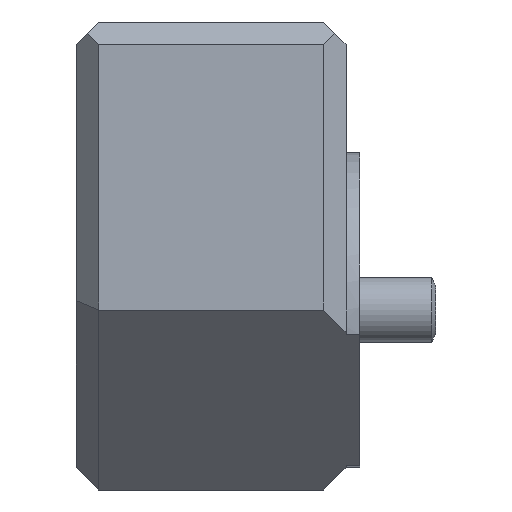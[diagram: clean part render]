
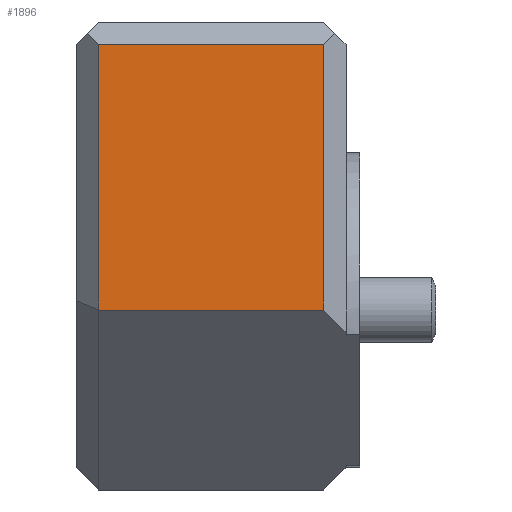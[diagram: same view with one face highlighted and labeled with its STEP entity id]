
A CAD part, left-side view. The second image highlights one B-rep face of the part: STEP entity #1896.
In plain terms, the highlighted planar face has unit normal (-1, 0, 0).
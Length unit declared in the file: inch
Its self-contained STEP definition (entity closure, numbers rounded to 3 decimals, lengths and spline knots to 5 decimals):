
#66=PLANE('',#2053);
#137=FACE_OUTER_BOUND('',#245,.T.);
#245=EDGE_LOOP('',(#1269,#1270,#1271,#1272));
#367=LINE('',#2946,#490);
#372=LINE('',#2956,#495);
#373=LINE('',#2958,#496);
#374=LINE('',#2959,#497);
#490=VECTOR('',#2347,0.3937);
#495=VECTOR('',#2354,0.3937);
#496=VECTOR('',#2355,0.3937);
#497=VECTOR('',#2356,0.3937);
#771=VERTEX_POINT('',#2943);
#772=VERTEX_POINT('',#2945);
#776=VERTEX_POINT('',#2955);
#777=VERTEX_POINT('',#2957);
#972=EDGE_CURVE('',#771,#772,#367,.T.);
#977=EDGE_CURVE('',#771,#776,#372,.T.);
#978=EDGE_CURVE('',#777,#776,#373,.T.);
#979=EDGE_CURVE('',#772,#777,#374,.T.);
#1269=ORIENTED_EDGE('',*,*,#972,.F.);
#1270=ORIENTED_EDGE('',*,*,#977,.T.);
#1271=ORIENTED_EDGE('',*,*,#978,.F.);
#1272=ORIENTED_EDGE('',*,*,#979,.F.);
#1896=ADVANCED_FACE('',(#137),#66,.T.);
#2053=AXIS2_PLACEMENT_3D('',#2954,#2352,#2353);
#2347=DIRECTION('',(0.,0.,-1.));
#2352=DIRECTION('center_axis',(-1.,0.,0.));
#2353=DIRECTION('ref_axis',(0.,0.,1.));
#2354=DIRECTION('',(0.,1.,0.));
#2355=DIRECTION('',(0.,0.,1.));
#2356=DIRECTION('',(0.,1.,0.));
#2943=CARTESIAN_POINT('',(-1.57731,-0.62143,0.92512));
#2945=CARTESIAN_POINT('',(-1.57731,-0.62143,-0.23626));
#2946=CARTESIAN_POINT('',(-1.57731,-0.62143,-0.11813));
#2954=CARTESIAN_POINT('Origin',(-1.57731,-0.71985,-0.23626));
#2955=CARTESIAN_POINT('',(-1.57731,0.36282,0.92512));
#2956=CARTESIAN_POINT('',(-1.57731,-0.71985,0.92512));
#2957=CARTESIAN_POINT('',(-1.57731,0.36282,-0.23626));
#2958=CARTESIAN_POINT('',(-1.57731,0.36282,-0.11813));
#2959=CARTESIAN_POINT('',(-1.57731,-0.71985,-0.23626));
